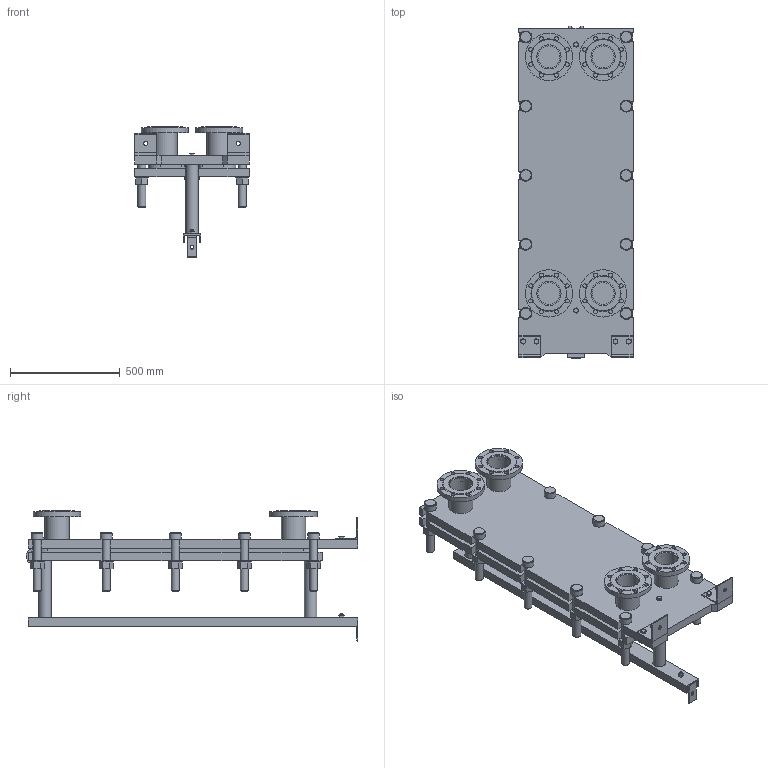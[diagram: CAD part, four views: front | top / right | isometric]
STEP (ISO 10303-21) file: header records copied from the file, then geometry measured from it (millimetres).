
FILE_DESCRIPTION(/* description */ (''),/* implementation_level */ '2;1');
FILE_NAME(/* name */ 'C:\Users\zhuro\Desktop\ENCO\TO\ЭН-04\ЭН-0,5-04-5-1.stp',/* time_stamp */ '2022-06-06T10:44:56+03:00',/* author */ ('zhuro'),/* organization */ (''),/* preprocessor_version */ 'ST-DEVELOPER v18.1',/* originating_system */ 'Autodesk Inventor 2022',/* authorisation */ '');
FILE_SCHEMA (('AUTOMOTIVE_DESIGN { 1 0 10303 214 3 1 1 }'));
Length unit declared in the file: millimetre
Products named in the file (1): ЭН-0,5-04-5-1
Bounding box: 520 x 1510 x 592.5 mm (x, y, z)
Volume: 74712639.6 mm3; surface area: 6266203 mm2
Topology: 45 solids, 45 shells, 668 faces, 1611 edges, 1048 vertices
Faces by surface type: plane 457, cylinder 166, cone 39, torus 6
Full cylindrical faces by diameter (mm): 8 x4, 10 x2, 16 x8, 18 x35, 36 x25, 40 x2, 42 x1, 45 x4, 54 x10, 57 x2, 60 x10, 68 x2, 100 x4, 110 x8, 215 x4
Entity records: 23607 total; most frequent: CARTESIAN_POINT 7348, DIRECTION 3371, ORIENTED_EDGE 3142, EDGE_CURVE 1571, AXIS2_PLACEMENT_3D 1199, VERTEX_POINT 1044, LINE 973, VECTOR 973
